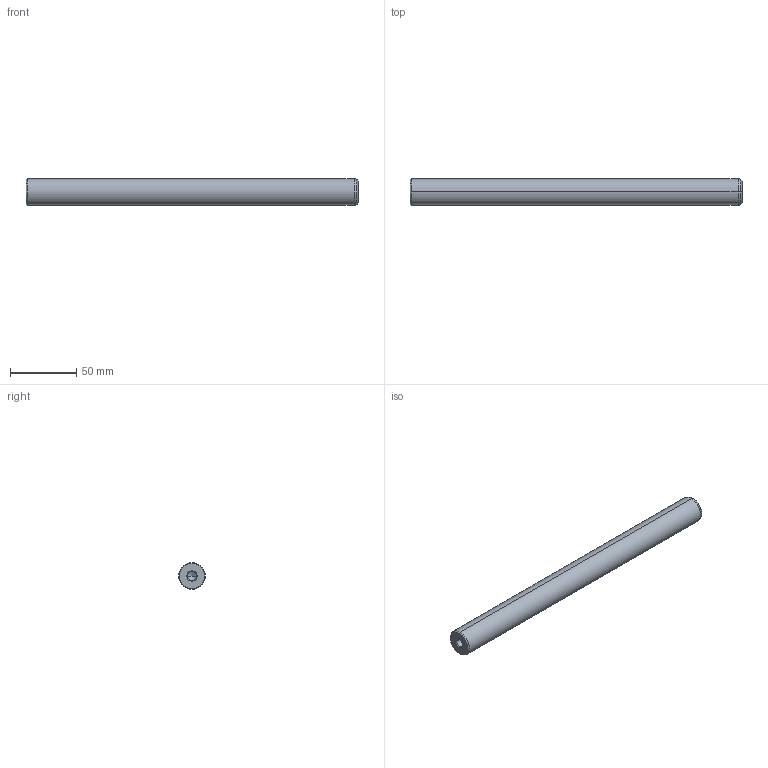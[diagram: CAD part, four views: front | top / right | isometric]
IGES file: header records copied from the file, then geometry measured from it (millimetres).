
Start section: START RECORD GO HERE.
Global section: file name: 720-20x250.igs; native system: DASSAULT SYSTEMES CATIA V5 R20 - www.3ds.com; preprocessor: CATIA Version 5 Release 20 ; author: Utente; organization: NB04-ASUS; date: 20210101.135553; units: millimetre
Bounding box: 250 x 20 x 20 mm (x, y, z)
Surface area: 17229.5 mm2 (no closed solid volume)
Topology: 0 solids, 0 shells, 22 faces, 108 edges, 104 vertices
Faces by surface type: revolution 20, plane 2
